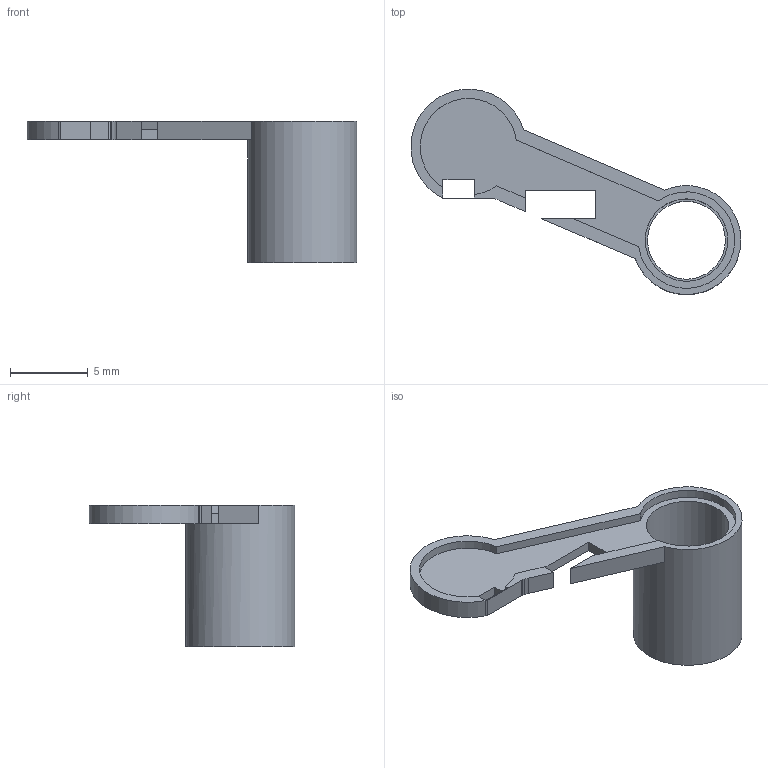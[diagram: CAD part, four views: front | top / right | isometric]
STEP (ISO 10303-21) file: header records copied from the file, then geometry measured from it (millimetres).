
FILE_DESCRIPTION(('Open CASCADE Model'),'2;1');
FILE_NAME('Open CASCADE Shape Model','2026-09-04T21:47:03',('Author'),( 'Open CASCADE'),'Open CASCADE STEP processor 7.7','Open CASCADE 7.7' ,'Unknown');
FILE_SCHEMA(('AUTOMOTIVE_DESIGN { 1 0 10303 214 1 1 1 1 }'));
Length unit declared in the file: millimetre
Products named in the file (1): Open CASCADE STEP translator 7.7 2
Bounding box: 21.19 x 13.19 x 9.1 mm (x, y, z)
Volume: 196.6 mm3; surface area: 623.3 mm2
Topology: 1 solids, 1 shells, 34 faces, 90 edges, 60 vertices
Faces by surface type: plane 23, cylinder 11
Full cylindrical faces by diameter (mm): 5 x1, 5.3 x2, 6.2 x1, 7 x1
Entity records: 2202 total; most frequent: CARTESIAN_POINT 499, DIRECTION 280, ORIENTED_EDGE 180, PCURVE 180, DEFINITIONAL_REPRESENTATION 180, LINE 148, VECTOR 148, EDGE_CURVE 90
